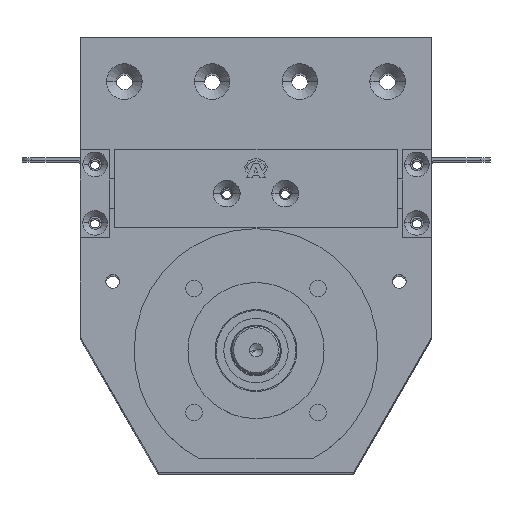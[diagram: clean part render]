
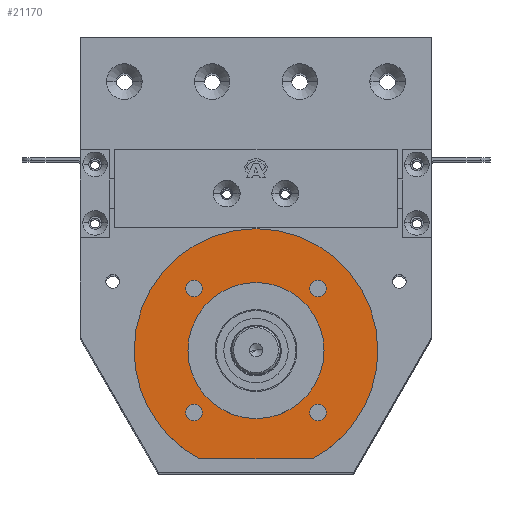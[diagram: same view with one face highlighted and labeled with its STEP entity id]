
A CAD part, top view. The second image highlights one B-rep face of the part: STEP entity #21170.
In plain terms, the highlighted planar face has unit normal (0, 0, 1) as drawn and (-1, 0, 0) by its records, which use the part's own axes.
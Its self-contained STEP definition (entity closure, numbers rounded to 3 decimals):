
#21 = EDGE_LOOP ( 'NONE', ( #8389, #3128 ) ) ;
#35 = CIRCLE ( 'NONE', #16842, 4.25 ) ;
#291 = CARTESIAN_POINT ( 'NONE',  ( 2., -31.82, 27.57 ) ) ;
#460 = CIRCLE ( 'NONE', #13987, 4.25 ) ;
#681 = CIRCLE ( 'NONE', #7540, 4.25 ) ;
#814 = EDGE_CURVE ( 'NONE', #6644, #1598, #8226, .T. ) ;
#1060 = DIRECTION ( 'NONE',  ( 0., 0., 1. ) ) ;
#1453 = DIRECTION ( 'NONE',  ( 0., 0., -1. ) ) ;
#1501 = DIRECTION ( 'NONE',  ( -1., 0., 0. ) ) ;
#1522 = DIRECTION ( 'NONE',  ( 0., 0., 1. ) ) ;
#1523 = EDGE_CURVE ( 'NONE', #9870, #6719, #460, .T. ) ;
#1569 = DIRECTION ( 'NONE',  ( 0., 0., 1. ) ) ;
#1598 = VERTEX_POINT ( 'NONE', #291 ) ;
#1675 = DIRECTION ( 'NONE',  ( -1., 0., 0. ) ) ;
#1805 = CARTESIAN_POINT ( 'NONE',  ( 2., 0., 0. ) ) ;
#1855 = VERTEX_POINT ( 'NONE', #12518 ) ;
#1988 = EDGE_CURVE ( 'NONE', #7751, #1855, #2138, .T. ) ;
#2031 = CARTESIAN_POINT ( 'NONE',  ( 2., -55.5, -28.74 ) ) ;
#2138 = CIRCLE ( 'NONE', #14855, 62.5 ) ;
#2140 = VERTEX_POINT ( 'NONE', #20987 ) ;
#2528 = CARTESIAN_POINT ( 'NONE',  ( 2., 31.82, 36.07 ) ) ;
#2552 = EDGE_CURVE ( 'NONE', #6719, #9870, #12124, .T. ) ;
#2572 = VERTEX_POINT ( 'NONE', #9742 ) ;
#3024 = CARTESIAN_POINT ( 'NONE',  ( 2., 0., 34.9 ) ) ;
#3128 = ORIENTED_EDGE ( 'NONE', *, *, #16858, .T. ) ;
#3384 = CIRCLE ( 'NONE', #7036, 4.25 ) ;
#4276 = CARTESIAN_POINT ( 'NONE',  ( 2., 0., 0. ) ) ;
#4327 = DIRECTION ( 'NONE',  ( 1., 0., 0. ) ) ;
#4825 = ORIENTED_EDGE ( 'NONE', *, *, #9413, .F. ) ;
#4908 = DIRECTION ( 'NONE',  ( 0., 0., 1. ) ) ;
#4926 = DIRECTION ( 'NONE',  ( -1., 0., 0. ) ) ;
#4948 = EDGE_LOOP ( 'NONE', ( #4825, #5635 ) ) ;
#5211 = DIRECTION ( 'NONE',  ( 1., 0., 0. ) ) ;
#5327 = VERTEX_POINT ( 'NONE', #17665 ) ;
#5439 = EDGE_LOOP ( 'NONE', ( #10354, #16465 ) ) ;
#5635 = ORIENTED_EDGE ( 'NONE', *, *, #13896, .F. ) ;
#5769 = ORIENTED_EDGE ( 'NONE', *, *, #11946, .T. ) ;
#5772 = ORIENTED_EDGE ( 'NONE', *, *, #9888, .T. ) ;
#6154 = CIRCLE ( 'NONE', #15205, 4.25 ) ;
#6164 = ORIENTED_EDGE ( 'NONE', *, *, #19235, .F. ) ;
#6286 = CARTESIAN_POINT ( 'NONE',  ( 2., 62.5, 0. ) ) ;
#6376 = DIRECTION ( 'NONE',  ( 1., 0., 0. ) ) ;
#6461 = ORIENTED_EDGE ( 'NONE', *, *, #1523, .T. ) ;
#6644 = VERTEX_POINT ( 'NONE', #13909 ) ;
#6719 = VERTEX_POINT ( 'NONE', #9570 ) ;
#6970 = CIRCLE ( 'NONE', #17898, 4.25 ) ;
#7036 = AXIS2_PLACEMENT_3D ( 'NONE', #15593, #15648, #15475 ) ;
#7366 = CARTESIAN_POINT ( 'NONE',  ( 2., 31.82, 31.82 ) ) ;
#7540 = AXIS2_PLACEMENT_3D ( 'NONE', #11907, #12052, #8129 ) ;
#7616 = VECTOR ( 'NONE', #17834, 1000. ) ;
#7677 = AXIS2_PLACEMENT_3D ( 'NONE', #19814, #19551, #1060 ) ;
#7751 = VERTEX_POINT ( 'NONE', #16388 ) ;
#8030 = CARTESIAN_POINT ( 'NONE',  ( 2., 31.82, -31.82 ) ) ;
#8081 = DIRECTION ( 'NONE',  ( 1., 0., 0. ) ) ;
#8129 = DIRECTION ( 'NONE',  ( 0., 0., -1. ) ) ;
#8133 = FACE_BOUND ( 'NONE', #21, .T. ) ;
#8226 = CIRCLE ( 'NONE', #15378, 4.25 ) ;
#8322 = AXIS2_PLACEMENT_3D ( 'NONE', #6286, #18344, #1453 ) ;
#8389 = ORIENTED_EDGE ( 'NONE', *, *, #10048, .T. ) ;
#8829 = CARTESIAN_POINT ( 'NONE',  ( 2., 31.82, -36.07 ) ) ;
#9157 = ORIENTED_EDGE ( 'NONE', *, *, #19678, .T. ) ;
#9403 = DIRECTION ( 'NONE',  ( 0., 0., -1. ) ) ;
#9413 = EDGE_CURVE ( 'NONE', #9938, #5327, #15278, .T. ) ;
#9570 = CARTESIAN_POINT ( 'NONE',  ( 2., 31.82, -27.57 ) ) ;
#9742 = CARTESIAN_POINT ( 'NONE',  ( 2., 0., -62.5 ) ) ;
#9773 = DIRECTION ( 'NONE',  ( 1., 0., 0. ) ) ;
#9870 = VERTEX_POINT ( 'NONE', #8829 ) ;
#9888 = EDGE_CURVE ( 'NONE', #13246, #17085, #6970, .T. ) ;
#9929 = DIRECTION ( 'NONE',  ( 0., 0., 1. ) ) ;
#9938 = VERTEX_POINT ( 'NONE', #3024 ) ;
#10048 = EDGE_CURVE ( 'NONE', #13685, #2140, #681, .T. ) ;
#10354 = ORIENTED_EDGE ( 'NONE', *, *, #11283, .T. ) ;
#11196 = ORIENTED_EDGE ( 'NONE', *, *, #14867, .T. ) ;
#11283 = EDGE_CURVE ( 'NONE', #1598, #6644, #6154, .T. ) ;
#11657 = CIRCLE ( 'NONE', #11891, 34.9 ) ;
#11891 = AXIS2_PLACEMENT_3D ( 'NONE', #19781, #1675, #1522 ) ;
#11907 = CARTESIAN_POINT ( 'NONE',  ( 2., -31.82, -31.82 ) ) ;
#11936 = CARTESIAN_POINT ( 'NONE',  ( 2., -55.5, 28.74 ) ) ;
#11946 = EDGE_CURVE ( 'NONE', #1855, #2572, #19449, .T. ) ;
#12052 = DIRECTION ( 'NONE',  ( 1., 0., 0. ) ) ;
#12106 = DIRECTION ( 'NONE',  ( 0., 0., -1. ) ) ;
#12124 = CIRCLE ( 'NONE', #15815, 4.25 ) ;
#12518 = CARTESIAN_POINT ( 'NONE',  ( 2., 0., 62.5 ) ) ;
#12526 = CIRCLE ( 'NONE', #18152, 62.5 ) ;
#12715 = FACE_BOUND ( 'NONE', #14051, .T. ) ;
#12879 = CARTESIAN_POINT ( 'NONE',  ( 2., 31.82, 27.57 ) ) ;
#13149 = CARTESIAN_POINT ( 'NONE',  ( 2., -31.82, -36.07 ) ) ;
#13246 = VERTEX_POINT ( 'NONE', #2528 ) ;
#13685 = VERTEX_POINT ( 'NONE', #13149 ) ;
#13783 = ORIENTED_EDGE ( 'NONE', *, *, #2552, .T. ) ;
#13790 = CARTESIAN_POINT ( 'NONE',  ( 2., -31.82, 31.82 ) ) ;
#13896 = EDGE_CURVE ( 'NONE', #5327, #9938, #11657, .T. ) ;
#13909 = CARTESIAN_POINT ( 'NONE',  ( 2., -31.82, 36.07 ) ) ;
#13987 = AXIS2_PLACEMENT_3D ( 'NONE', #8030, #6376, #16300 ) ;
#14051 = EDGE_LOOP ( 'NONE', ( #6461, #13783 ) ) ;
#14136 = DIRECTION ( 'NONE',  ( -1., 0., 0. ) ) ;
#14184 = DIRECTION ( 'NONE',  ( 0., 0., -1. ) ) ;
#14531 = FACE_BOUND ( 'NONE', #4948, .T. ) ;
#14710 = CARTESIAN_POINT ( 'NONE',  ( 2., 0., 0. ) ) ;
#14789 = FACE_BOUND ( 'NONE', #5439, .T. ) ;
#14829 = FACE_OUTER_BOUND ( 'NONE', #19059, .T. ) ;
#14855 = AXIS2_PLACEMENT_3D ( 'NONE', #4276, #14136, #9929 ) ;
#14867 = EDGE_CURVE ( 'NONE', #2572, #18446, #12526, .T. ) ;
#15205 = AXIS2_PLACEMENT_3D ( 'NONE', #13790, #8081, #12106 ) ;
#15242 = PLANE ( 'NONE',  #8322 ) ;
#15278 = CIRCLE ( 'NONE', #7677, 34.9 ) ;
#15378 = AXIS2_PLACEMENT_3D ( 'NONE', #15867, #4327, #14184 ) ;
#15475 = DIRECTION ( 'NONE',  ( 0., 0., -1. ) ) ;
#15593 = CARTESIAN_POINT ( 'NONE',  ( 2., 31.82, 31.82 ) ) ;
#15648 = DIRECTION ( 'NONE',  ( 1., 0., 0. ) ) ;
#15815 = AXIS2_PLACEMENT_3D ( 'NONE', #16278, #9773, #20575 ) ;
#15867 = CARTESIAN_POINT ( 'NONE',  ( 2., -31.82, 31.82 ) ) ;
#15882 = AXIS2_PLACEMENT_3D ( 'NONE', #14710, #4926, #4908 ) ;
#16278 = CARTESIAN_POINT ( 'NONE',  ( 2., 31.82, -31.82 ) ) ;
#16300 = DIRECTION ( 'NONE',  ( 0., 0., -1. ) ) ;
#16388 = CARTESIAN_POINT ( 'NONE',  ( 2., -55.5, 28.74 ) ) ;
#16465 = ORIENTED_EDGE ( 'NONE', *, *, #814, .T. ) ;
#16590 = EDGE_LOOP ( 'NONE', ( #9157, #5772 ) ) ;
#16842 = AXIS2_PLACEMENT_3D ( 'NONE', #20180, #17997, #18076 ) ;
#16858 = EDGE_CURVE ( 'NONE', #2140, #13685, #35, .T. ) ;
#17085 = VERTEX_POINT ( 'NONE', #12879 ) ;
#17665 = CARTESIAN_POINT ( 'NONE',  ( 2., 0., -34.9 ) ) ;
#17676 = FACE_BOUND ( 'NONE', #16590, .T. ) ;
#17834 = DIRECTION ( 'NONE',  ( 0., 0., -1. ) ) ;
#17898 = AXIS2_PLACEMENT_3D ( 'NONE', #7366, #5211, #9403 ) ;
#17997 = DIRECTION ( 'NONE',  ( 1., 0., 0. ) ) ;
#18076 = DIRECTION ( 'NONE',  ( 0., 0., -1. ) ) ;
#18152 = AXIS2_PLACEMENT_3D ( 'NONE', #1805, #1501, #1569 ) ;
#18344 = DIRECTION ( 'NONE',  ( 1., 0., 0. ) ) ;
#18446 = VERTEX_POINT ( 'NONE', #2031 ) ;
#18693 = ORIENTED_EDGE ( 'NONE', *, *, #1988, .T. ) ;
#19059 = EDGE_LOOP ( 'NONE', ( #18693, #5769, #11196, #6164 ) ) ;
#19235 = EDGE_CURVE ( 'NONE', #7751, #18446, #20107, .T. ) ;
#19449 = CIRCLE ( 'NONE', #15882, 62.5 ) ;
#19551 = DIRECTION ( 'NONE',  ( -1., 0., 0. ) ) ;
#19678 = EDGE_CURVE ( 'NONE', #17085, #13246, #3384, .T. ) ;
#19781 = CARTESIAN_POINT ( 'NONE',  ( 2., 0., 0. ) ) ;
#19814 = CARTESIAN_POINT ( 'NONE',  ( 2., 0., 0. ) ) ;
#20107 = LINE ( 'NONE', #11936, #7616 ) ;
#20180 = CARTESIAN_POINT ( 'NONE',  ( 2., -31.82, -31.82 ) ) ;
#20575 = DIRECTION ( 'NONE',  ( 0., 0., -1. ) ) ;
#20987 = CARTESIAN_POINT ( 'NONE',  ( 2., -31.82, -27.57 ) ) ;
#21170 = ADVANCED_FACE ( 'NONE', ( #8133, #14789, #17676, #12715, #14531, #14829 ), #15242, .F. ) ;
